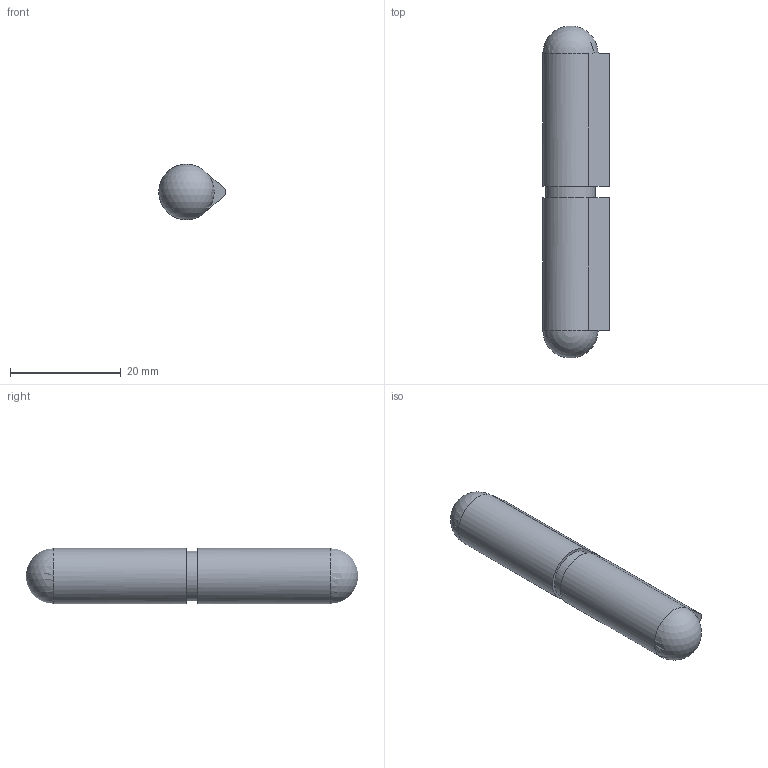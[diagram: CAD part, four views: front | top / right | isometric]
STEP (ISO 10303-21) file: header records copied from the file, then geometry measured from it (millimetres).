
FILE_DESCRIPTION(('STEP AP242'),'1');
FILE_NAME(' souder acier - Axe fixe - Axe acier 37-720-60.A.0.stp','2019-07-24T15:01:54',(' '),(' '),'Spatial InterOp 3D',' ',' ');
FILE_SCHEMA(('AP242_MANAGED_MODEL_BASED_3D_ENGINEERING_MIM_LF {1 0 10303 442 1 1 4}'));
Length unit declared in the file: millimetre
Products named in the file (3): Emile Maurin 37-720-60; _emile_maurin_37-72-1-60_0_1 ST; _emile_maurin_37-72-3-60_0_1 ST
Assembly tree (2 placements, depth 2):
  Emile Maurin 37-720-60
    _emile_maurin_37-72-1-60_0_1 ST
    _emile_maurin_37-72-3-60_0_1 ST
Bounding box: 12 x 59.93 x 10 mm (x, y, z)
Volume: 4729.2 mm3; surface area: 2929.6 mm2
Topology: 2 solids, 2 shells, 20 faces, 49 edges, 30 vertices
Faces by surface type: plane 11, cylinder 5, sphere 3, cone 1
Full cylindrical faces by diameter (mm): 6 x2, 9 x1
Entity records: 772 total; most frequent: DIRECTION 90, CARTESIAN_POINT 79, ORIENTED_EDGE 64, AXIS2_PLACEMENT_3D 35, EDGE_CURVE 32, EDGE_LOOP 26, VERTEX_POINT 24, FACE_OUTER_BOUND 23
